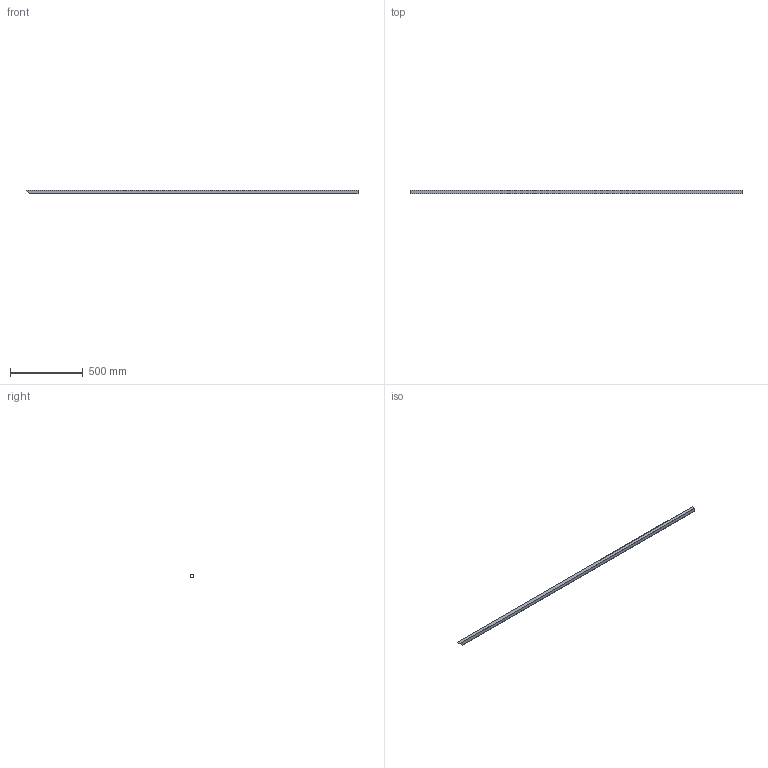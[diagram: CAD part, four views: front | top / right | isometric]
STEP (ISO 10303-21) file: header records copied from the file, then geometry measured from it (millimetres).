
FILE_DESCRIPTION(/* description */ ('(C) Elphel, Inc. 2012. Licensed under CERN OHL v.1.1 or later, see http://ohwr.org/cernohl'),/* implementation_level */ '2;1');
FILE_NAME(/* name */ '0353-25-211B',/* time_stamp */ '2012-06-08T13:39:13-06:00',/* author */ (''),/* organization */ ('Elphel, Inc'),/* preprocessor_version */ 'ST-DEVELOPER v12',/* originating_system */ 'VariCAD 2012-1.04; kernel version (20100102)',/* authorisation */ '');
FILE_SCHEMA (('AUTOMOTIVE_DESIGN'));
Length unit declared in the file: millimetre
Products named in the file (1): Part
Bounding box: 2283.2 x 25.4 x 25.4 mm (x, y, z)
Volume: 343320.9 mm3; surface area: 432895.3 mm2
Topology: 1 solids, 1 shells, 10 faces, 24 edges, 16 vertices
Faces by surface type: plane 10
Entity records: 319 total; most frequent: CARTESIAN_POINT 52, ORIENTED_EDGE 48, DIRECTION 48, EDGE_CURVE 24, LINE 24, VECTOR 24, VERTEX_POINT 16, EDGE_LOOP 12
